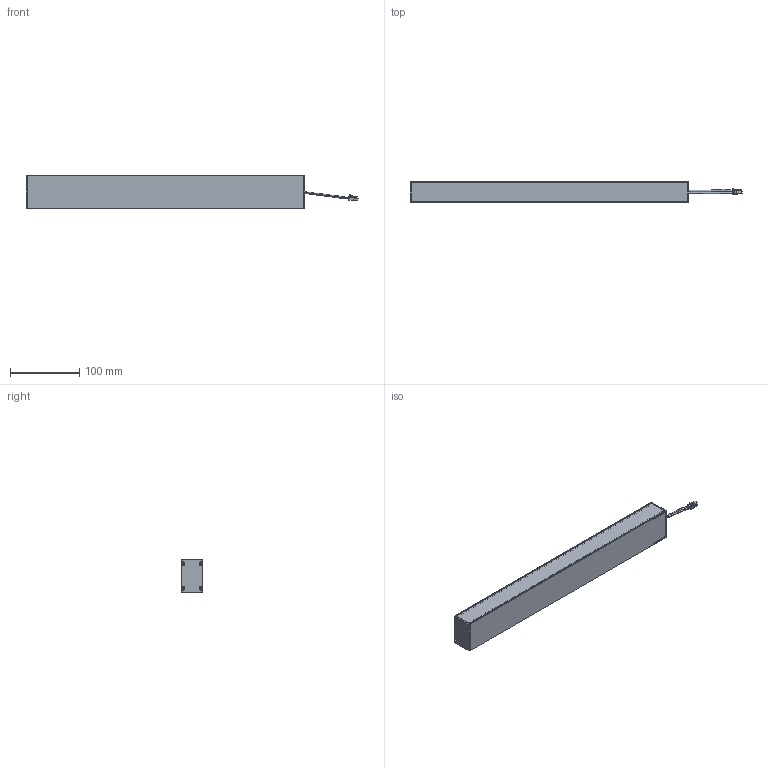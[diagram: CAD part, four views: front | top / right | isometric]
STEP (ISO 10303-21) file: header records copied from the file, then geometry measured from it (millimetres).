
FILE_DESCRIPTION (( 'STEP AP214' ), '1' );
FILE_NAME ('MadeiraCompleto.STEP', '2022-02-18T09:59:00', ( '' ), ( '' ), 'SwSTEP 2.0', 'SolidWorks 2021', '' );
FILE_SCHEMA (( 'AUTOMOTIVE_DESIGN' ));
Length unit declared in the file: millimetre
Products named in the file (1): MadeiraCompleto
Bounding box: 480.97 x 30.81 x 47 mm (x, y, z)
Surface area: 183268.9 mm2 (no closed solid volume)
Topology: 0 solids, 12 shells, 568 faces, 1548 edges, 988 vertices
Faces by surface type: plane 328, cylinder 140, cone 80, bspline 9, torus 8, sphere 3
Entity records: 28793 total; most frequent: CARTESIAN_POINT 8166, ORIENTED_EDGE 3072, DIRECTION 2878, EDGE_CURVE 1536, LINE 1054, VECTOR 1054, VERTEX_POINT 988, AXIS2_PLACEMENT_3D 912
